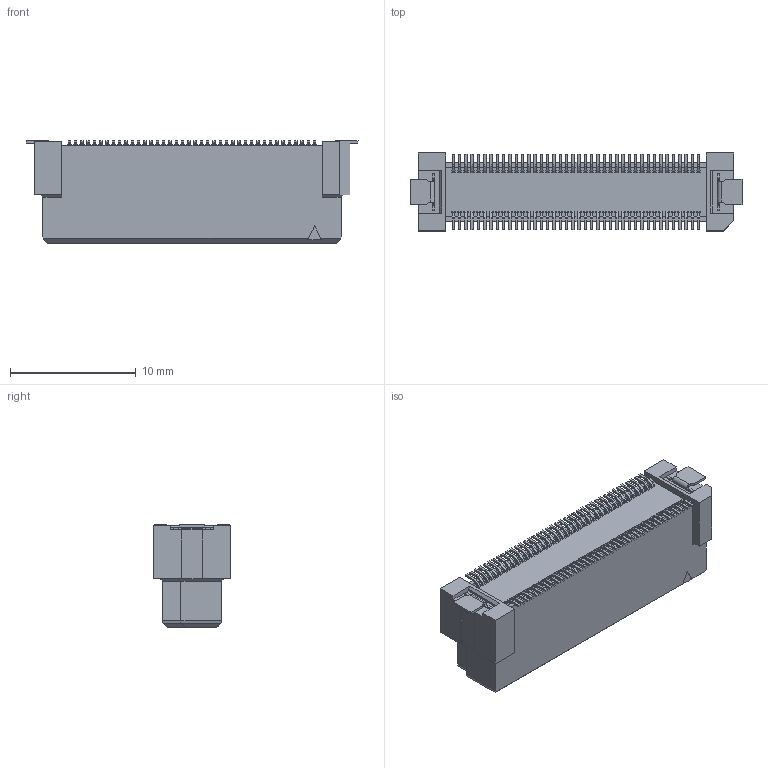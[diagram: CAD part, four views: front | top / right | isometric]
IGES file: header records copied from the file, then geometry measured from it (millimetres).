
Start section: Elysium IGES Interface
Global section: file name: 73HC:\Users\1502\Desktop\DT_webリニューアル\プラグ\ボス無\DT10-080S-10-T.igs; native system: Creo Elements/Direct Modeling 19.0F  14-Feb-2017; preprocessor: Creo Element/Direct IGES_3D V2.2; author: Unknown; organization: Unknown; date: 20170811.100859; units: millimetre
Bounding box: 26.4 x 6.2 x 8.18 mm (x, y, z)
Volume: 808.2 mm3; surface area: 1392.1 mm2
Topology: 1 solids, 1 shells, 2851 faces, 7718 edges, 5032 vertices
Faces by surface type: bspline 2851
